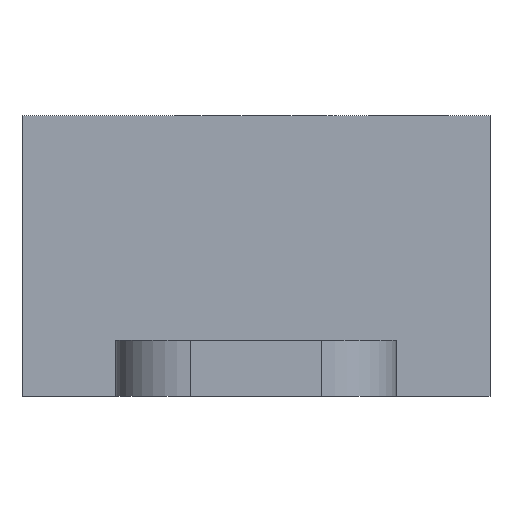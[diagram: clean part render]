
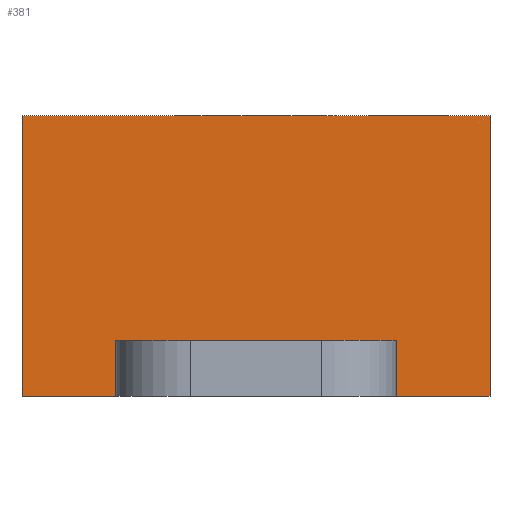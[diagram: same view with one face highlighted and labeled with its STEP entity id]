
A CAD part, front view. The second image highlights one B-rep face of the part: STEP entity #381.
In plain terms, the highlighted planar face has unit normal (0, -1, 0).
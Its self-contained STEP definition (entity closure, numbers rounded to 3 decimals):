
#33=PLANE('',#423);
#52=FACE_OUTER_BOUND('',#75,.T.);
#75=EDGE_LOOP('',(#322,#323,#324,#325,#326,#327,#328,#329));
#87=LINE('',#541,#128);
#91=LINE('',#550,#132);
#95=LINE('',#560,#136);
#115=LINE('',#646,#156);
#116=LINE('',#648,#157);
#117=LINE('',#650,#158);
#118=LINE('',#652,#159);
#119=LINE('',#653,#160);
#128=VECTOR('',#441,10.);
#132=VECTOR('',#449,10.);
#136=VECTOR('',#459,10.);
#156=VECTOR('',#507,10.);
#157=VECTOR('',#510,10.);
#158=VECTOR('',#511,10.);
#159=VECTOR('',#512,10.);
#160=VECTOR('',#513,10.);
#179=VERTEX_POINT('',#538);
#180=VERTEX_POINT('',#540);
#183=VERTEX_POINT('',#548);
#186=VERTEX_POINT('',#558);
#202=VERTEX_POINT('',#640);
#204=VERTEX_POINT('',#644);
#205=VERTEX_POINT('',#649);
#206=VERTEX_POINT('',#651);
#214=EDGE_CURVE('',#180,#179,#87,.T.);
#219=EDGE_CURVE('',#179,#183,#91,.T.);
#224=EDGE_CURVE('',#183,#186,#95,.T.);
#250=EDGE_CURVE('',#202,#204,#115,.T.);
#251=EDGE_CURVE('',#202,#186,#116,.T.);
#252=EDGE_CURVE('',#205,#204,#117,.T.);
#253=EDGE_CURVE('',#206,#205,#118,.T.);
#254=EDGE_CURVE('',#180,#206,#119,.T.);
#322=ORIENTED_EDGE('',*,*,#224,.T.);
#323=ORIENTED_EDGE('',*,*,#251,.F.);
#324=ORIENTED_EDGE('',*,*,#250,.T.);
#325=ORIENTED_EDGE('',*,*,#252,.F.);
#326=ORIENTED_EDGE('',*,*,#253,.F.);
#327=ORIENTED_EDGE('',*,*,#254,.F.);
#328=ORIENTED_EDGE('',*,*,#214,.T.);
#329=ORIENTED_EDGE('',*,*,#219,.T.);
#381=ADVANCED_FACE('',(#52),#33,.T.);
#423=AXIS2_PLACEMENT_3D('',#647,#508,#509);
#441=DIRECTION('',(0.,0.,1.));
#449=DIRECTION('',(1.,0.,0.));
#459=DIRECTION('',(0.,0.,-1.));
#507=DIRECTION('',(0.,0.,1.));
#508=DIRECTION('center_axis',(0.,-1.,0.));
#509=DIRECTION('ref_axis',(1.,0.,0.));
#510=DIRECTION('',(-1.,0.,0.));
#511=DIRECTION('',(1.,0.,0.));
#512=DIRECTION('',(0.,0.,1.));
#513=DIRECTION('',(-1.,0.,0.));
#538=CARTESIAN_POINT('',(-7.5,-7.5,3.));
#540=CARTESIAN_POINT('',(-7.5,-7.5,0.));
#541=CARTESIAN_POINT('',(-7.5,-7.5,0.));
#548=CARTESIAN_POINT('',(7.5,-7.5,3.));
#550=CARTESIAN_POINT('',(-6.25,-7.5,3.));
#558=CARTESIAN_POINT('',(7.5,-7.5,0.));
#560=CARTESIAN_POINT('',(7.5,-7.5,0.));
#640=CARTESIAN_POINT('',(12.5,-7.5,0.));
#644=CARTESIAN_POINT('',(12.5,-7.5,15.));
#646=CARTESIAN_POINT('',(12.5,-7.5,0.));
#647=CARTESIAN_POINT('Origin',(-12.5,-7.5,0.));
#648=CARTESIAN_POINT('',(12.5,-7.5,0.));
#649=CARTESIAN_POINT('',(-12.5,-7.5,15.));
#650=CARTESIAN_POINT('',(12.5,-7.5,15.));
#651=CARTESIAN_POINT('',(-12.5,-7.5,0.));
#652=CARTESIAN_POINT('',(-12.5,-7.5,0.));
#653=CARTESIAN_POINT('',(12.5,-7.5,0.));
